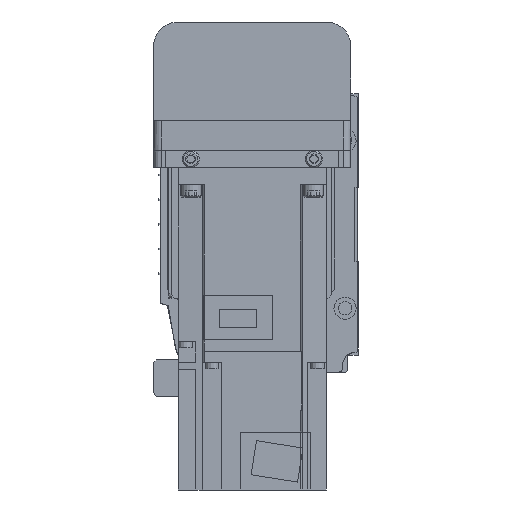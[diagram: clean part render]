
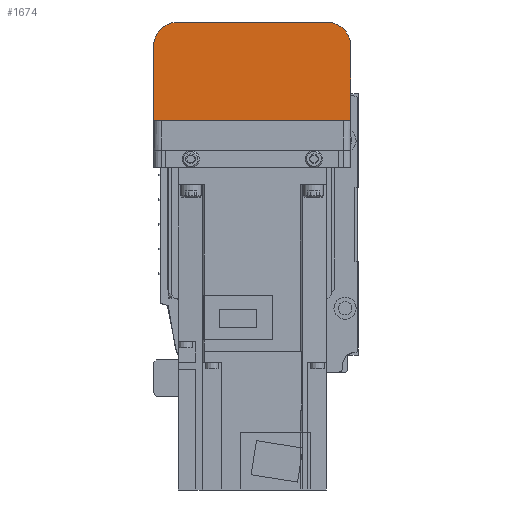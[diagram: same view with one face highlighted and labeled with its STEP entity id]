
A CAD part, left-side view. The second image highlights one B-rep face of the part: STEP entity #1674.
In plain terms, the highlighted planar face has unit normal (-1, 0, 0).
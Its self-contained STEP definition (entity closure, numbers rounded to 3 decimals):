
#1674 = ADVANCED_FACE( '', ( #3771 ), #3772, .F. );
#3771 = FACE_OUTER_BOUND( '', #6355, .T. );
#3772 = PLANE( '', #6356 );
#6355 = EDGE_LOOP( '', ( #10882, #10883, #10884, #10885, #10886, #10887 ) );
#6356 = AXIS2_PLACEMENT_3D( '', #10888, #10889, #10890 );
#10882 = ORIENTED_EDGE( '', *, *, #15985, .F. );
#10883 = ORIENTED_EDGE( '', *, *, #15998, .F. );
#10884 = ORIENTED_EDGE( '', *, *, #15457, .F. );
#10885 = ORIENTED_EDGE( '', *, *, #16055, .F. );
#10886 = ORIENTED_EDGE( '', *, *, #14615, .F. );
#10887 = ORIENTED_EDGE( '', *, *, #16056, .F. );
#10888 = CARTESIAN_POINT( '', ( -192., 37., 7. ) );
#10889 = DIRECTION( '', ( 1., 0., 0. ) );
#10890 = DIRECTION( '', ( 0., 0., -1. ) );
#14615 = EDGE_CURVE( '', #17367, #17369, #17370, .T. );
#15457 = EDGE_CURVE( '', #18781, #18783, #18784, .T. );
#15985 = EDGE_CURVE( '', #19574, #19576, #19577, .T. );
#15998 = EDGE_CURVE( '', #18783, #19574, #19592, .T. );
#16055 = EDGE_CURVE( '', #17369, #18781, #19669, .T. );
#16056 = EDGE_CURVE( '', #19576, #17367, #19670, .T. );
#17367 = VERTEX_POINT( '', #21303 );
#17369 = VERTEX_POINT( '', #21306 );
#17370 = CIRCLE( '', #21307, 10. );
#18781 = VERTEX_POINT( '', #23155 );
#18783 = VERTEX_POINT( '', #23158 );
#18784 = CIRCLE( '', #23159, 10. );
#19574 = VERTEX_POINT( '', #24216 );
#19576 = VERTEX_POINT( '', #24219 );
#19577 = LINE( '', #24220, #24221 );
#19592 = LINE( '', #24243, #24244 );
#19669 = LINE( '', #24346, #24347 );
#19670 = LINE( '', #24348, #24349 );
#21303 = CARTESIAN_POINT( '', ( -192., -40., -42. ) );
#21306 = CARTESIAN_POINT( '', ( -192., -30., -52. ) );
#21307 = AXIS2_PLACEMENT_3D( '', #26108, #26109, #26110 );
#23155 = CARTESIAN_POINT( '', ( -192., 30., -52. ) );
#23158 = CARTESIAN_POINT( '', ( -192., 40., -42. ) );
#23159 = AXIS2_PLACEMENT_3D( '', #27251, #27252, #27253 );
#24216 = CARTESIAN_POINT( '', ( -192., 40., -12.1 ) );
#24219 = CARTESIAN_POINT( '', ( -192., -40., -12.1 ) );
#24220 = CARTESIAN_POINT( '', ( -192., 50., -12.1 ) );
#24221 = VECTOR( '', #27906, 1000. );
#24243 = CARTESIAN_POINT( '', ( -192., 40., -42. ) );
#24244 = VECTOR( '', #27917, 1000. );
#24346 = CARTESIAN_POINT( '', ( -192., -30., -52. ) );
#24347 = VECTOR( '', #27982, 1000. );
#24348 = CARTESIAN_POINT( '', ( -192., -40., -12.1 ) );
#24349 = VECTOR( '', #27983, 1000. );
#26108 = CARTESIAN_POINT( '', ( -192., -30., -42. ) );
#26109 = DIRECTION( '', ( 1., 0., 0. ) );
#26110 = DIRECTION( '', ( 0., 0., -1. ) );
#27251 = CARTESIAN_POINT( '', ( -192., 30., -42. ) );
#27252 = DIRECTION( '', ( 1., 0., 0. ) );
#27253 = DIRECTION( '', ( 0., 0., -1. ) );
#27906 = DIRECTION( '', ( 0., -1., 0. ) );
#27917 = DIRECTION( '', ( 0., 0., 1. ) );
#27982 = DIRECTION( '', ( 0., 1., 0. ) );
#27983 = DIRECTION( '', ( 0., 0., -1. ) );
